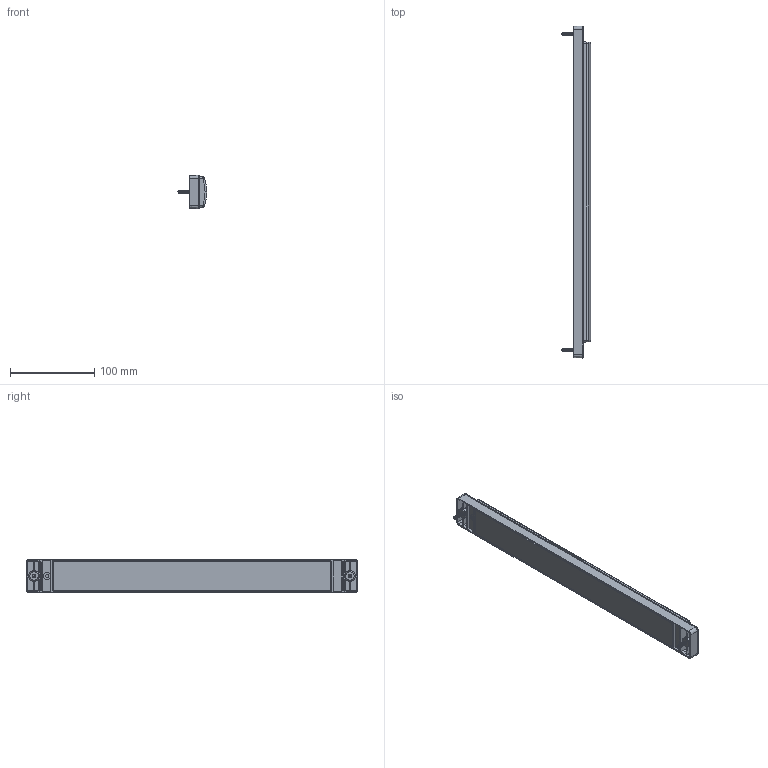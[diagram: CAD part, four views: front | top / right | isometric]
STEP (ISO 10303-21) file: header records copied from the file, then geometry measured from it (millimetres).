
FILE_DESCRIPTION((''),'2;1');
FILE_NAME('ROGUE2_ASM','2021-12-27T15:15:07',('dell'),(''),'CREO PARAMETRIC BY PTC INC, 2021284','CREO PARAMETRIC BY PTC INC, 2021284','');
FILE_SCHEMA(('CONFIG_CONTROL_DESIGN','SHAPE_APPEARANCE_LAYERS_GROUPS'));
Products named in the file (14): ROGUE-P1_1_1_1_1_1_1_1; ROUGE-P4_1_1_1_1_1_1_1; PRT0003_1_1_1_1_1_1_1_1_2; PRT0004_1_1_1_1_1_1_1_1_2; PRT0005_1_1_1_1_1_1_1; ROUGE-P3; ROGUE-P2; ASM0001_ASM_1_ASM_1_ASM_1_ASM_2_ASM; PRT0003_1_1_1_1_1_1; J0504160ZG02_1_1_1_1_1_1; PRT0004_1_1_1_1_1_1; 56_ASM_1_ASM_1_ASM_1_ASM_1_AS_1_ASM; HEN_ASM_1_ASM_1_ASM_1_ASM_1_A_1_ASM; ROGUE2_ASM
Assembly tree (24 placements, depth 5):
  ROGUE2_ASM
    HEN_ASM_1_ASM_1_ASM_1_ASM_1_A_1_ASM
      56_ASM_1_ASM_1_ASM_1_ASM_1_AS_1_ASM
        ASM0001_ASM_1_ASM_1_ASM_1_ASM_2_ASM
          ROGUE-P1_1_1_1_1_1_1_1
          ROUGE-P4_1_1_1_1_1_1_1  x2
          PRT0003_1_1_1_1_1_1_1_1_2  x2
          PRT0004_1_1_1_1_1_1_1_1_2  x8
          PRT0005_1_1_1_1_1_1_1  x2
          ROUGE-P3  x2
          ROGUE-P2
        PRT0003_1_1_1_1_1_1
        J0504160ZG02_1_1_1_1_1_1
        PRT0004_1_1_1_1_1_1
Bounding box: 34.7 x 394 x 40.2 mm (x, y, z)
Volume: 158092.5 mm3; surface area: 167453.5 mm2
Topology: 21 solids, 21 shells, 3811 faces, 10398 edges, 6619 vertices
Faces by surface type: plane 1318, bspline 1050, cylinder 685, cone 254, revolution 200, torus 148, extrusion 148, sphere 8
Entity records: 124400 total; most frequent: CARTESIAN_POINT 71670, ORIENTED_EDGE 12658, DIRECTION 8258, EDGE_CURVE 6329, VERTEX_POINT 4050, VECTOR 2836, LINE 2798, AXIS2_PLACEMENT_3D 2673
